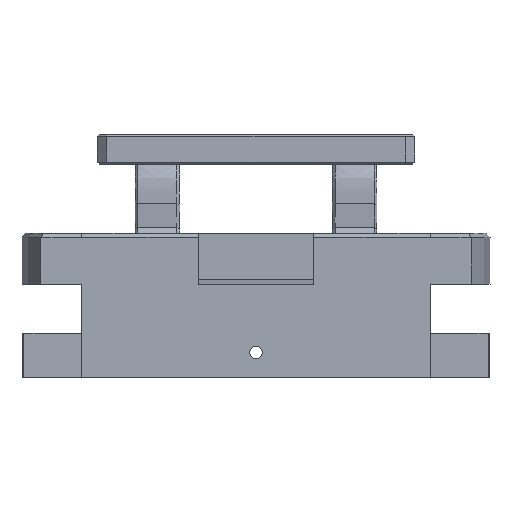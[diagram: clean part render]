
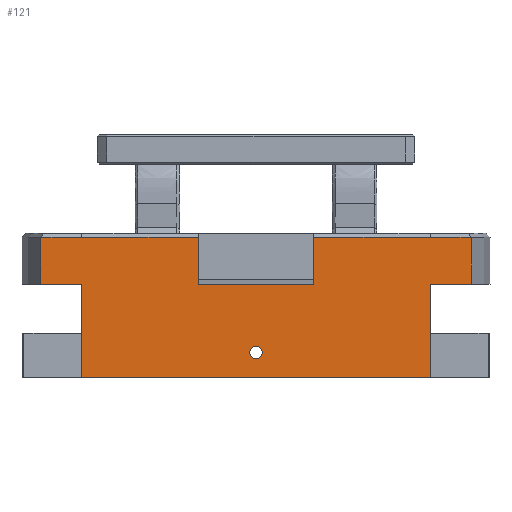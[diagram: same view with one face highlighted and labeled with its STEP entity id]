
A CAD part, front view. The second image highlights one B-rep face of the part: STEP entity #121.
In plain terms, the highlighted planar face has unit normal (0, -1, 0).
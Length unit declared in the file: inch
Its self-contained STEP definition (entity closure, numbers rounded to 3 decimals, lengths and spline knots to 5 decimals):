
#59=CIRCLE('',#2084,0.04687);
#80=FACE_BOUND('',#437,.T.);
#81=FACE_BOUND('',#438,.T.);
#121=ADVANCED_FACE('',(#80,#81),#240,.T.);
#240=PLANE('',#2085);
#437=EDGE_LOOP('',(#671));
#438=EDGE_LOOP('',(#672,#673,#674,#675,#676,#677,#678,#679,#680,#681,#682,
#683,#684,#685));
#671=ORIENTED_EDGE('',*,*,#1411,.F.);
#672=ORIENTED_EDGE('',*,*,#1412,.T.);
#673=ORIENTED_EDGE('',*,*,#1413,.T.);
#674=ORIENTED_EDGE('',*,*,#1414,.T.);
#675=ORIENTED_EDGE('',*,*,#1415,.T.);
#676=ORIENTED_EDGE('',*,*,#1416,.F.);
#677=ORIENTED_EDGE('',*,*,#1417,.T.);
#678=ORIENTED_EDGE('',*,*,#1418,.T.);
#679=ORIENTED_EDGE('',*,*,#1419,.T.);
#680=ORIENTED_EDGE('',*,*,#1420,.T.);
#681=ORIENTED_EDGE('',*,*,#1396,.T.);
#682=ORIENTED_EDGE('',*,*,#1421,.F.);
#683=ORIENTED_EDGE('',*,*,#1391,.F.);
#684=ORIENTED_EDGE('',*,*,#1422,.T.);
#685=ORIENTED_EDGE('',*,*,#1423,.T.);
#1211=VERTEX_POINT('',#2726);
#1215=VERTEX_POINT('',#2734);
#1220=VERTEX_POINT('',#2745);
#1221=VERTEX_POINT('',#2747);
#1233=VERTEX_POINT('',#2792);
#1234=VERTEX_POINT('',#2794);
#1235=VERTEX_POINT('',#2795);
#1236=VERTEX_POINT('',#2797);
#1237=VERTEX_POINT('',#2799);
#1238=VERTEX_POINT('',#2801);
#1239=VERTEX_POINT('',#2803);
#1240=VERTEX_POINT('',#2805);
#1241=VERTEX_POINT('',#2807);
#1242=VERTEX_POINT('',#2809);
#1243=VERTEX_POINT('',#2813);
#1391=EDGE_CURVE('',#1215,#1211,#1670,.T.);
#1396=EDGE_CURVE('',#1221,#1220,#1675,.T.);
#1411=EDGE_CURVE('',#1233,#1233,#59,.T.);
#1412=EDGE_CURVE('',#1234,#1235,#1687,.T.);
#1413=EDGE_CURVE('',#1235,#1236,#1688,.T.);
#1414=EDGE_CURVE('',#1236,#1237,#1689,.T.);
#1415=EDGE_CURVE('',#1237,#1238,#1690,.T.);
#1416=EDGE_CURVE('',#1239,#1238,#1691,.T.);
#1417=EDGE_CURVE('',#1239,#1240,#1692,.T.);
#1418=EDGE_CURVE('',#1240,#1241,#1693,.T.);
#1419=EDGE_CURVE('',#1241,#1242,#1694,.T.);
#1420=EDGE_CURVE('',#1242,#1221,#1695,.T.);
#1421=EDGE_CURVE('',#1211,#1220,#1696,.T.);
#1422=EDGE_CURVE('',#1215,#1243,#1697,.T.);
#1423=EDGE_CURVE('',#1243,#1234,#1698,.T.);
#1670=LINE('',#2735,#1881);
#1675=LINE('',#2746,#1886);
#1687=LINE('',#2793,#1898);
#1688=LINE('',#2796,#1899);
#1689=LINE('',#2798,#1900);
#1690=LINE('',#2800,#1901);
#1691=LINE('',#2802,#1902);
#1692=LINE('',#2804,#1903);
#1693=LINE('',#2806,#1904);
#1694=LINE('',#2808,#1905);
#1695=LINE('',#2810,#1906);
#1696=LINE('',#2811,#1907);
#1697=LINE('',#2812,#1908);
#1698=LINE('',#2814,#1909);
#1881=VECTOR('',#2229,1.);
#1886=VECTOR('',#2236,1.);
#1898=VECTOR('',#2256,1.);
#1899=VECTOR('',#2257,1.);
#1900=VECTOR('',#2258,1.);
#1901=VECTOR('',#2259,1.);
#1902=VECTOR('',#2260,1.);
#1903=VECTOR('',#2261,1.);
#1904=VECTOR('',#2262,1.);
#1905=VECTOR('',#2263,1.);
#1906=VECTOR('',#2264,1.);
#1907=VECTOR('',#2265,1.);
#1908=VECTOR('',#2266,1.);
#1909=VECTOR('',#2267,1.);
#2084=AXIS2_PLACEMENT_3D('',#2791,#2254,#2255);
#2085=AXIS2_PLACEMENT_3D('',#2815,#2268,#2269);
#2229=DIRECTION('',(0.,0.,-1.));
#2236=DIRECTION('',(0.,0.,-1.));
#2254=DIRECTION('',(0.,-1.,0.));
#2255=DIRECTION('',(0.,0.,-1.));
#2256=DIRECTION('',(-1.,0.,0.));
#2257=DIRECTION('',(-1.,0.,0.));
#2258=DIRECTION('',(0.,0.,-1.));
#2259=DIRECTION('',(-1.,0.,0.));
#2260=DIRECTION('',(0.,0.,-1.));
#2261=DIRECTION('',(-1.,0.,0.));
#2262=DIRECTION('',(-1.,0.,0.));
#2263=DIRECTION('',(0.,0.,-1.));
#2264=DIRECTION('',(1.,0.,0.));
#2265=DIRECTION('',(-1.,0.,0.));
#2266=DIRECTION('',(1.,0.,0.));
#2267=DIRECTION('',(0.,0.,1.));
#2268=DIRECTION('',(0.,-1.,0.));
#2269=DIRECTION('',(0.,0.,-1.));
#2726=CARTESIAN_POINT('',(2.63508,0.,0.));
#2734=CARTESIAN_POINT('',(2.63508,0.,0.70181));
#2735=CARTESIAN_POINT('',(2.63508,0.,1.08681));
#2745=CARTESIAN_POINT('',(0.,0.,0.));
#2746=CARTESIAN_POINT('',(0.,0.,1.08681));
#2747=CARTESIAN_POINT('',(0.,0.,0.70181));
#2791=CARTESIAN_POINT('',(1.31752,0.,0.18768));
#2792=CARTESIAN_POINT('',(1.31752,0.,0.14081));
#2793=CARTESIAN_POINT('',(2.63508,0.,1.05654));
#2794=CARTESIAN_POINT('',(2.94248,0.,1.05654));
#2795=CARTESIAN_POINT('',(2.63508,0.,1.05654));
#2796=CARTESIAN_POINT('',(1.75283,0.,1.05654));
#2797=CARTESIAN_POINT('',(1.75283,0.,1.05654));
#2798=CARTESIAN_POINT('',(1.75283,0.,1.08681));
#2799=CARTESIAN_POINT('',(1.75283,0.,0.70181));
#2800=CARTESIAN_POINT('',(1.75283,0.,0.70181));
#2801=CARTESIAN_POINT('',(0.8822,0.,0.70181));
#2802=CARTESIAN_POINT('',(0.8822,0.,1.08681));
#2803=CARTESIAN_POINT('',(0.8822,0.,1.05654));
#2804=CARTESIAN_POINT('',(0.,0.,1.05654));
#2805=CARTESIAN_POINT('',(0.,0.,1.05654));
#2806=CARTESIAN_POINT('',(2.63508,0.,1.05654));
#2807=CARTESIAN_POINT('',(-0.30744,0.,1.05654));
#2808=CARTESIAN_POINT('',(-0.30744,0.,1.08682));
#2809=CARTESIAN_POINT('',(-0.30744,0.,0.70181));
#2810=CARTESIAN_POINT('',(-0.30744,0.,0.70181));
#2811=CARTESIAN_POINT('',(2.63508,0.,0.));
#2812=CARTESIAN_POINT('',(2.94248,0.,0.70181));
#2813=CARTESIAN_POINT('',(2.94248,0.,0.70181));
#2814=CARTESIAN_POINT('',(2.94248,0.,1.08682));
#2815=CARTESIAN_POINT('',(2.63508,0.,1.08681));
